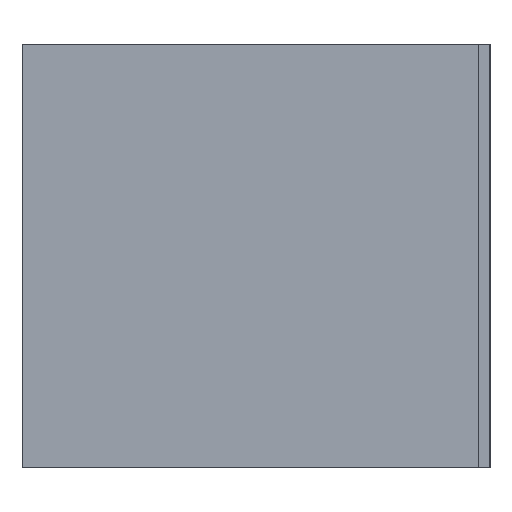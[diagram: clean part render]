
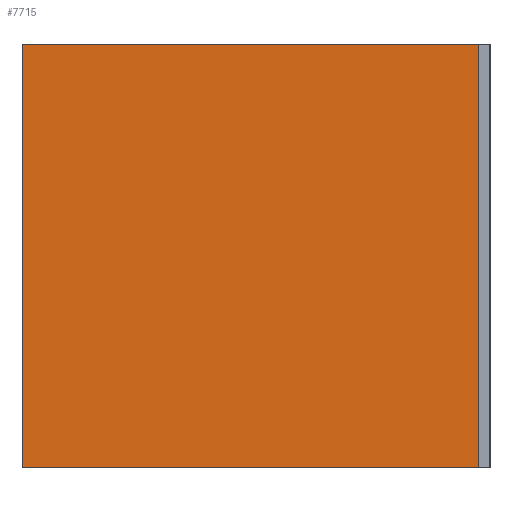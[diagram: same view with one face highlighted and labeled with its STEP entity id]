
A CAD part, left-side view. The second image highlights one B-rep face of the part: STEP entity #7715.
In plain terms, the highlighted planar face has unit normal (-1, 0, 0).
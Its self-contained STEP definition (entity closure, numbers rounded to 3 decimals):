
#426 = LINE ( 'NONE', #18162, #12682 ) ;
#974 = CARTESIAN_POINT ( 'NONE',  ( 0., -24.25, -22.5 ) ) ;
#1012 = VERTEX_POINT ( 'NONE', #1217 ) ;
#1217 = CARTESIAN_POINT ( 'NONE',  ( 0., 24.25, 22.5 ) ) ;
#1306 = ORIENTED_EDGE ( 'NONE', *, *, #10236, .F. ) ;
#1899 = LINE ( 'NONE', #18918, #10268 ) ;
#3034 = CARTESIAN_POINT ( 'NONE',  ( 0., -24.25, 22.5 ) ) ;
#3077 = LINE ( 'NONE', #7989, #15414 ) ;
#5861 = VERTEX_POINT ( 'NONE', #11656 ) ;
#7715 = ADVANCED_FACE ( 'NONE', ( #19009 ), #9327, .T. ) ;
#7919 = DIRECTION ( 'NONE',  ( 0., -1., 0. ) ) ;
#7989 = CARTESIAN_POINT ( 'NONE',  ( 0., 24.25, 22.5 ) ) ;
#8118 = ORIENTED_EDGE ( 'NONE', *, *, #13728, .F. ) ;
#8240 = CARTESIAN_POINT ( 'NONE',  ( 0., 24.25, -22.5 ) ) ;
#8404 = DIRECTION ( 'NONE',  ( 0., 1., 0. ) ) ;
#8922 = EDGE_CURVE ( 'NONE', #5861, #1012, #1899, .T. ) ;
#9114 = DIRECTION ( 'NONE',  ( 0., 0., -1. ) ) ;
#9138 = DIRECTION ( 'NONE',  ( -1., 0., 0. ) ) ;
#9180 = CARTESIAN_POINT ( 'NONE',  ( 0., -24.25, 22.5 ) ) ;
#9327 = PLANE ( 'NONE',  #13946 ) ;
#10199 = EDGE_CURVE ( 'NONE', #18423, #5861, #11984, .T. ) ;
#10236 = EDGE_CURVE ( 'NONE', #1012, #11580, #3077, .T. ) ;
#10268 = VECTOR ( 'NONE', #18359, 1000. ) ;
#11475 = VECTOR ( 'NONE', #8404, 1000. ) ;
#11580 = VERTEX_POINT ( 'NONE', #3034 ) ;
#11656 = CARTESIAN_POINT ( 'NONE',  ( 0., 24.25, -22.5 ) ) ;
#11984 = LINE ( 'NONE', #8240, #11475 ) ;
#12366 = ORIENTED_EDGE ( 'NONE', *, *, #8922, .F. ) ;
#12682 = VECTOR ( 'NONE', #18119, 1000. ) ;
#13728 = EDGE_CURVE ( 'NONE', #11580, #18423, #426, .T. ) ;
#13946 = AXIS2_PLACEMENT_3D ( 'NONE', #9180, #9138, #9114 ) ;
#15414 = VECTOR ( 'NONE', #7919, 1000. ) ;
#18119 = DIRECTION ( 'NONE',  ( 0., 0., -1. ) ) ;
#18162 = CARTESIAN_POINT ( 'NONE',  ( 0., -24.25, -22.5 ) ) ;
#18359 = DIRECTION ( 'NONE',  ( 0., 0., 1. ) ) ;
#18423 = VERTEX_POINT ( 'NONE', #974 ) ;
#18918 = CARTESIAN_POINT ( 'NONE',  ( 0., 24.25, -22.5 ) ) ;
#19009 = FACE_OUTER_BOUND ( 'NONE', #19659, .T. ) ;
#19659 = EDGE_LOOP ( 'NONE', ( #1306, #12366, #20121, #8118 ) ) ;
#20121 = ORIENTED_EDGE ( 'NONE', *, *, #10199, .F. ) ;
